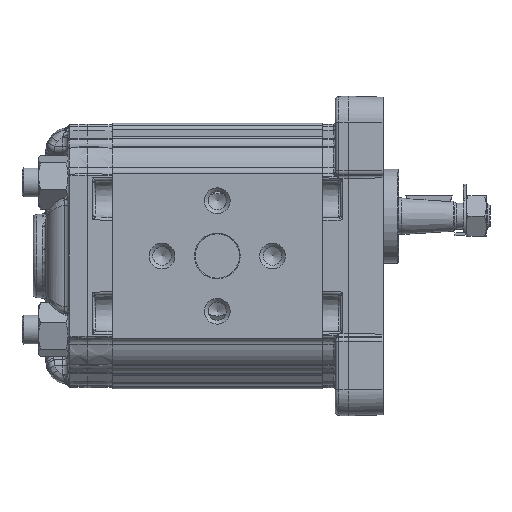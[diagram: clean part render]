
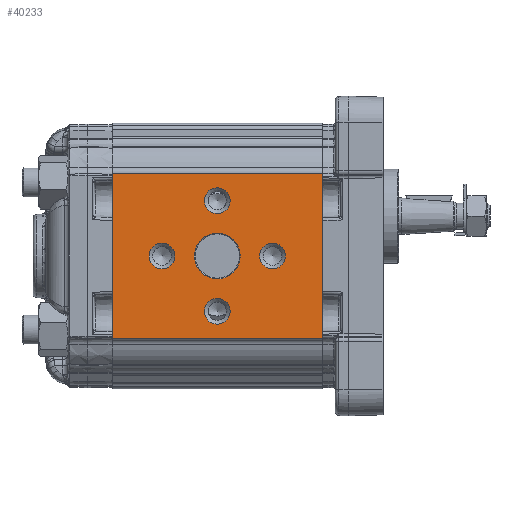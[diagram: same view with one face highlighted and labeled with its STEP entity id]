
A CAD part, left-side view. The second image highlights one B-rep face of the part: STEP entity #40233.
In plain terms, the highlighted planar face has unit normal (-1, 0, 0).
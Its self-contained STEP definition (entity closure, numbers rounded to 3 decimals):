
#3922=LINE('',#94059,#5887);
#3932=LINE('',#94160,#5897);
#3951=LINE('',#94208,#5916);
#3952=LINE('',#94210,#5917);
#5887=VECTOR('',#70842,1000.);
#5897=VECTOR('',#70934,1000.);
#5916=VECTOR('',#70989,1000.);
#5917=VECTOR('',#70992,1000.);
#7331=PLANE('',#62989);
#12984=ORIENTED_EDGE('',*,*,#22596,.T.);
#12985=ORIENTED_EDGE('',*,*,#22597,.T.);
#12986=ORIENTED_EDGE('',*,*,#22598,.T.);
#12987=ORIENTED_EDGE('',*,*,#22599,.T.);
#12988=ORIENTED_EDGE('',*,*,#22600,.T.);
#12989=ORIENTED_EDGE('',*,*,#22576,.T.);
#12990=ORIENTED_EDGE('',*,*,#22548,.T.);
#12991=ORIENTED_EDGE('',*,*,#22577,.T.);
#12992=ORIENTED_EDGE('',*,*,#22498,.F.);
#22498=EDGE_CURVE('',#27638,#27639,#3922,.T.);
#22548=EDGE_CURVE('',#27689,#27688,#3932,.T.);
#22576=EDGE_CURVE('',#27638,#27689,#3951,.T.);
#22577=EDGE_CURVE('',#27688,#27639,#3952,.F.);
#22596=EDGE_CURVE('',#27708,#27708,#30913,.F.);
#22597=EDGE_CURVE('',#27709,#27709,#30914,.F.);
#22598=EDGE_CURVE('',#27710,#27710,#30915,.F.);
#22599=EDGE_CURVE('',#27711,#27711,#30916,.F.);
#22600=EDGE_CURVE('',#27712,#27712,#30917,.F.);
#27638=VERTEX_POINT('',#94058);
#27639=VERTEX_POINT('',#94060);
#27688=VERTEX_POINT('',#94159);
#27689=VERTEX_POINT('',#94161);
#27708=VERTEX_POINT('',#94333);
#27709=VERTEX_POINT('',#94335);
#27710=VERTEX_POINT('',#94337);
#27711=VERTEX_POINT('',#94339);
#27712=VERTEX_POINT('',#94341);
#30913=CIRCLE('',#62990,3.5);
#30914=CIRCLE('',#62991,3.5);
#30915=CIRCLE('',#62992,3.5);
#30916=CIRCLE('',#62993,3.5);
#30917=CIRCLE('',#62994,6.2);
#33472=EDGE_LOOP('',(#12984));
#33473=EDGE_LOOP('',(#12985));
#33474=EDGE_LOOP('',(#12986));
#33475=EDGE_LOOP('',(#12987));
#33476=EDGE_LOOP('',(#12988));
#33477=EDGE_LOOP('',(#12989,#12990,#12991,#12992));
#36523=FACE_BOUND('',#33472,.T.);
#36524=FACE_BOUND('',#33473,.T.);
#36525=FACE_BOUND('',#33474,.T.);
#36526=FACE_BOUND('',#33475,.T.);
#36527=FACE_BOUND('',#33476,.T.);
#36528=FACE_BOUND('',#33477,.T.);
#40233=ADVANCED_FACE('',(#36523,#36524,#36525,#36526,#36527,#36528),#7331,
 .T.);
#62989=AXIS2_PLACEMENT_3D('',#94331,#71035,#71036);
#62990=AXIS2_PLACEMENT_3D('',#94332,#71037,#71038);
#62991=AXIS2_PLACEMENT_3D('',#94334,#71039,#71040);
#62992=AXIS2_PLACEMENT_3D('',#94336,#71041,#71042);
#62993=AXIS2_PLACEMENT_3D('',#94338,#71043,#71044);
#62994=AXIS2_PLACEMENT_3D('',#94340,#71045,#71046);
#70842=DIRECTION('',(0.,0.,1.));
#70934=DIRECTION('',(0.,0.,1.));
#70989=DIRECTION('',(0.,-1.,0.));
#70992=DIRECTION('',(0.,-1.,0.));
#71035=DIRECTION('',(-1.,0.,0.));
#71036=DIRECTION('',(0.,0.,1.));
#71037=DIRECTION('',(-1.,0.,0.));
#71038=DIRECTION('',(0.,0.,1.));
#71039=DIRECTION('',(-1.,0.,0.));
#71040=DIRECTION('',(0.,0.,1.));
#71041=DIRECTION('',(-1.,0.,0.));
#71042=DIRECTION('',(0.,0.,1.));
#71043=DIRECTION('',(-1.,0.,0.));
#71044=DIRECTION('',(0.,0.,1.));
#71045=DIRECTION('',(-1.,0.,0.));
#71046=DIRECTION('',(0.,0.,1.));
#94058=CARTESIAN_POINT('',(-33.,57.,-22.5));
#94059=CARTESIAN_POINT('',(-33.,57.,-21.711));
#94060=CARTESIAN_POINT('',(-33.,57.,22.5));
#94159=CARTESIAN_POINT('',(-33.,0.,22.5));
#94160=CARTESIAN_POINT('',(-33.,0.,-21.711));
#94161=CARTESIAN_POINT('',(-33.,0.,-22.5));
#94208=CARTESIAN_POINT('',(-33.,57.,-22.5));
#94210=CARTESIAN_POINT('',(-33.,57.,22.5));
#94331=CARTESIAN_POINT('',(-33.,130.814,48.138));
#94332=CARTESIAN_POINT('',(-33.,28.5,-15.));
#94333=CARTESIAN_POINT('',(-33.,28.5,-11.5));
#94334=CARTESIAN_POINT('',(-33.,13.5,0.));
#94335=CARTESIAN_POINT('',(-33.,13.5,3.5));
#94336=CARTESIAN_POINT('',(-33.,28.5,15.));
#94337=CARTESIAN_POINT('',(-33.,28.5,18.5));
#94338=CARTESIAN_POINT('',(-33.,43.5,0.));
#94339=CARTESIAN_POINT('',(-33.,43.5,3.5));
#94340=CARTESIAN_POINT('',(-33.,28.5,0.));
#94341=CARTESIAN_POINT('',(-33.,28.5,6.2));
